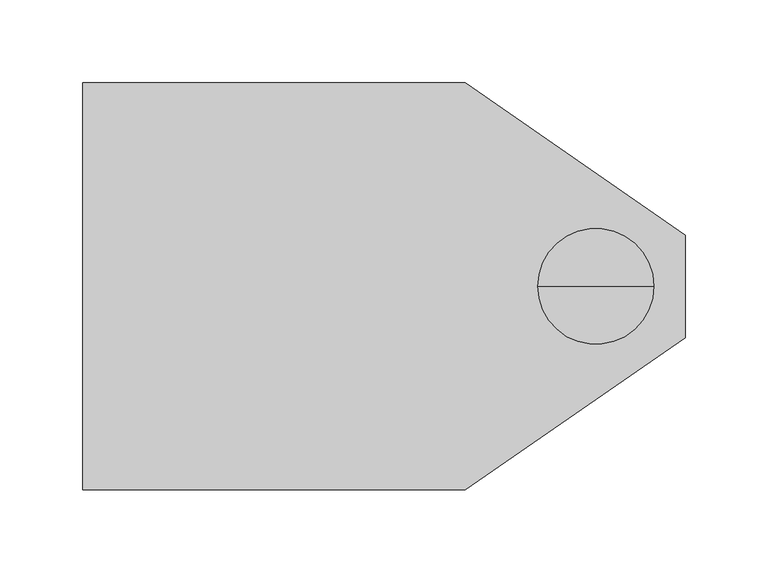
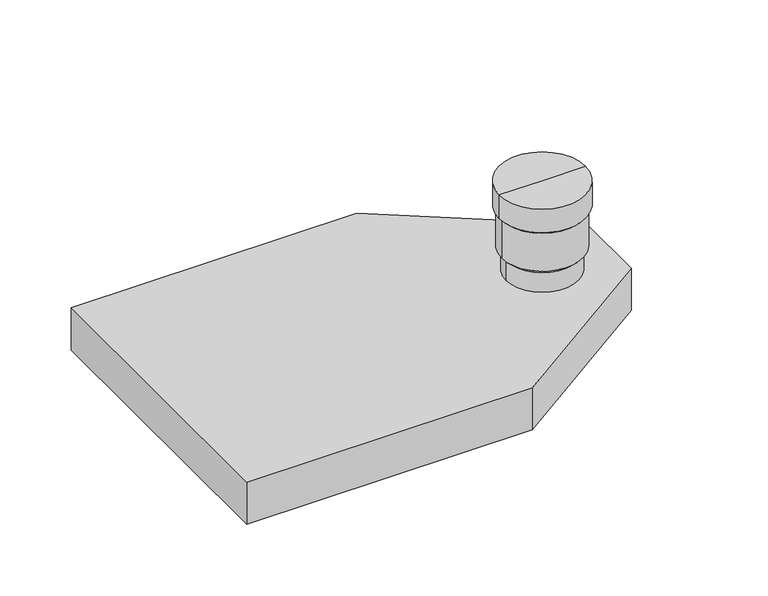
"""IFC4 building model written with IfcOpenShell, lengths in millimetres: sanitary terminal geometry, PF_WPB_Downpipe pickup_ACO : Downpipe pickup."""

from ifc_helpers import new_model, si_unit, frame, origin, place, context, project, spatial, polyline, circle_curve, outline, extrude, source, transform, mapped, element, save
from ifc_brep_helpers import plane_surface, cylinder_surface, revolved_surface, advanced_brep


def sanitary_terminal_960be7c0(model_context):
    return source(origin(), model_context, "Body", "SolidModel", [
        advanced_brep(
        [(345.0, 0.0, 75.0), (275.0, 0.0, 75.0), (310.0, 0.0, 75.0), (345.0, 0.0, 55.0), (275.0, 0.0, 55.0), (342.8120428, 0.0, 52.8120428), (277.1879572, 0.0, 52.8120428), (342.8120428, 0.0, 20.3058695), (277.1879572, 0.0, 20.3058695), (339.2765089, 0.0, 16.7703356), (280.7234911, 0.0, 16.7703356), (339.2765089, 0.0, 0.0), (280.7234911, 0.0, 0.0), (310.0, 0.0, 0.0)],
        [
            (0, 1, circle_curve(frame((310.0, 0.0, 75.0), z_axis=(0.0, 0.0, 1.0), x_axis=(-1.0, 0.0, 0.0)), 35.0)),
            (1, 2),
            (2, 0),
            (1, 0, circle_curve(frame((310.0, 0.0, 75.0), z_axis=(0.0, 0.0, 1.0), x_axis=(-1.0, 0.0, 0.0)), 35.0)),
            (3, 4, circle_curve(frame((310.0, 0.0, 55.0), z_axis=(0.0, 0.0, 1.0), x_axis=(-1.0, 0.0, 0.0)), 35.0)),
            (4, 1),
            (0, 3),
            (4, 3, circle_curve(frame((310.0, 0.0, 55.0), z_axis=(0.0, 0.0, 1.0), x_axis=(-1.0, 0.0, 0.0)), 35.0)),
            (5, 6, circle_curve(frame((310.0, 0.0, 52.8120428), z_axis=(0.0, 0.0, 1.0), x_axis=(-1.0, 0.0, 0.0)), 32.8120428)),
            (6, 4),
            (3, 5),
            (6, 5, circle_curve(frame((310.0, 0.0, 52.8120428), z_axis=(0.0, 0.0, 1.0), x_axis=(-1.0, 0.0, 0.0)), 32.8120428)),
            (7, 8, circle_curve(frame((310.0, 0.0, 20.3058695), z_axis=(0.0, 0.0, 1.0), x_axis=(-1.0, 0.0, 0.0)), 32.8120428)),
            (8, 6),
            (5, 7),
            (8, 7, circle_curve(frame((310.0, 0.0, 20.3058695), z_axis=(0.0, 0.0, 1.0), x_axis=(-1.0, 0.0, 0.0)), 32.8120428)),
            (9, 10, circle_curve(frame((310.0, 0.0, 16.7703356), z_axis=(0.0, 0.0, 1.0), x_axis=(-1.0, 0.0, 0.0)), 29.2765089)),
            (10, 8),
            (7, 9),
            (10, 9, circle_curve(frame((310.0, 0.0, 16.7703356), z_axis=(0.0, 0.0, 1.0), x_axis=(-1.0, 0.0, 0.0)), 29.2765089)),
            (11, 12, circle_curve(frame((310.0, 0.0, 0.0), z_axis=(0.0, 0.0, 1.0), x_axis=(-1.0, 0.0, 0.0)), 29.2765089)),
            (12, 10),
            (9, 11),
            (12, 11, circle_curve(frame((310.0, 0.0, 0.0), z_axis=(0.0, 0.0, 1.0), x_axis=(-1.0, 0.0, 0.0)), 29.2765089)),
            (13, 12),
            (11, 13),
        ],
        [
            plane_surface(frame((310.0, 0.0, 75.0), z_axis=(0.0, 0.0, 1.0), x_axis=(-1.0, 0.0, 0.0))),
            cylinder_surface(frame((310.0, 0.0, 164.3878679), z_axis=(0.0, 0.0, -1.0), x_axis=(-1.0, 0.0, 0.0)), 35.0),
            revolved_surface(polyline([(275.0, 0.0, 55.0), (277.1879572, 0.0, 52.8120428)]), (310.0, 0.0, 164.3878679), (0.0, 0.0, -1.0)),
            cylinder_surface(frame((310.0, 0.0, 164.3878679), z_axis=(0.0, 0.0, -1.0), x_axis=(-1.0, 0.0, 0.0)), 32.8120428),
            revolved_surface(polyline([(277.1879572, 0.0, 20.3058695), (280.7234911, 0.0, 16.7703356)]), (310.0, 0.0, 164.3878679), (0.0, 0.0, -1.0)),
            cylinder_surface(frame((310.0, 0.0, 164.3878679), z_axis=(0.0, 0.0, -1.0), x_axis=(-1.0, 0.0, 0.0)), 29.2765089),
            plane_surface(frame((310.0, 0.0, 0.0), z_axis=(0.0, 0.0, -1.0), x_axis=(-1.0, 0.0, 0.0))),
        ],
        [
            (0, [[1, 2, 3]]),
            (0, [[4, -3, -2]]),
            (1, [[5, 6, -1, 7]]),
            (1, [[8, -7, -4, -6]]),
            (2, [[9, 10, -5, 11]]),
            (2, [[12, -11, -8, -10]]),
            (3, [[13, 14, -9, 15]]),
            (3, [[16, -15, -12, -14]]),
            (4, [[17, 18, -13, 19]]),
            (4, [[20, -19, -16, -18]]),
            (5, [[21, 22, -17, 23]]),
            (5, [[24, -23, -20, -22]]),
            (6, [[25, -21, 26]]),
            (6, [[-26, -24, -25]]),
        ],
    ),
        extrude(outline(polyline([(364.0, -31.0), (231.0, -123.0), (0.0, -123.0), (0.0, 123.0), (231.0, 123.0), (364.0, 31.0), (364.0, -31.0)])), frame((0.0, 0.0, -36.0), z_axis=(0.0, 0.0, 1.0), x_axis=(1.0, 0.0, 0.0)), (0.0, 0.0, 1.0), 36.0),
    ])


if __name__ == "__main__":
    model = new_model("IFC4")
    model_context = context("Model", 3, world=origin())
    ifc_project = project(units=[si_unit("LENGTHUNIT", "METRE", prefix="MILLI")], contexts=[model_context])
    site = spatial("IfcSite", under=ifc_project)
    building = spatial("IfcBuilding", under=site)
    placement = place(None, origin())
    sanitary_terminal_shape = sanitary_terminal_960be7c0(model_context)
    element("IfcSanitaryTerminal", 1, ObjectType="PF_WPB_Downpipe pickup_ACO : Downpipe pickup", at=placement, inside=building, context=model_context, shape_type="MappedRepresentation", body=[
        mapped(sanitary_terminal_shape, transform((0.0, 0.0, 0.0), x_axis=(1.0, 0.0, 0.0), y_axis=(0.0, 1.0, 0.0), z_axis=(0.0, 0.0, 1.0))),
    ])
    save(model, "model.ifc")
